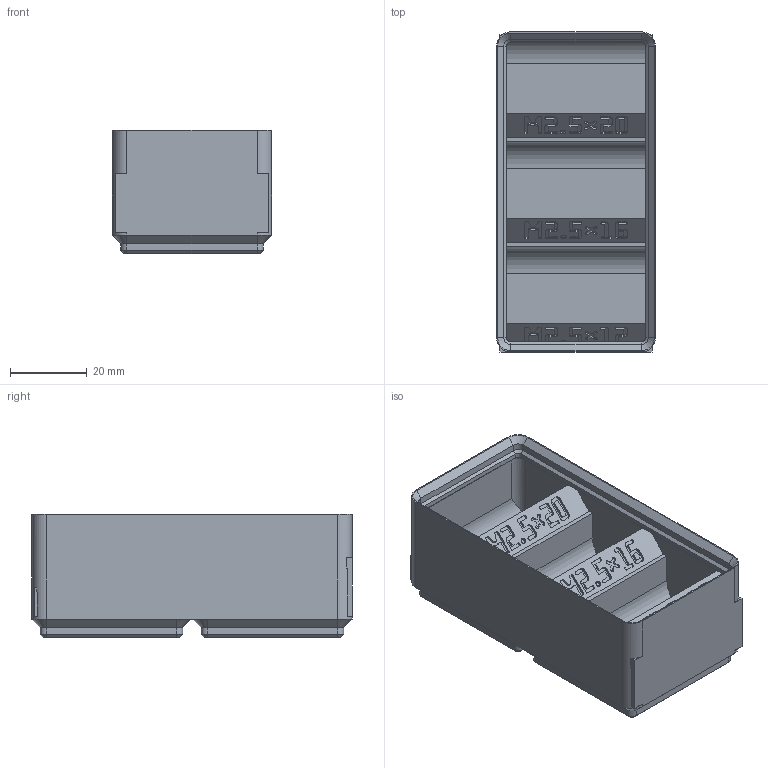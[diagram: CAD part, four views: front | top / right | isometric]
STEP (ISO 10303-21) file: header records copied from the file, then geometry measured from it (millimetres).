
FILE_DESCRIPTION(('Open CASCADE Model'),'2;1');
FILE_NAME('Open CASCADE Shape Model','2026-11-03T10:59:32',('Author'),( 'Open CASCADE'),'Open CASCADE STEP processor 8.0','build123d', 'Unknown');
FILE_SCHEMA(('AUTOMOTIVE_DESIGN { 1 0 10303 214 1 1 1 1 }'));
Products named in the file (1): COMPOUND
Bounding box: 41.5 x 83.5 x 32.1 mm (x, y, z)
Volume: 31160.5 mm3; surface area: 24811.1 mm2
Topology: 1 solids, 1 shells, 2182 faces, 6388 edges, 4236 vertices
Faces by surface type: plane 2123, cylinder 31, cone 28
Entity records: 153755 total; most frequent: CARTESIAN_POINT 26276, DIRECTION 23234, LINE 18652, VECTOR 18652, ORIENTED_EDGE 12776, PCURVE 12776, DEFINITIONAL_REPRESENTATION 12776, EDGE_CURVE 6388
